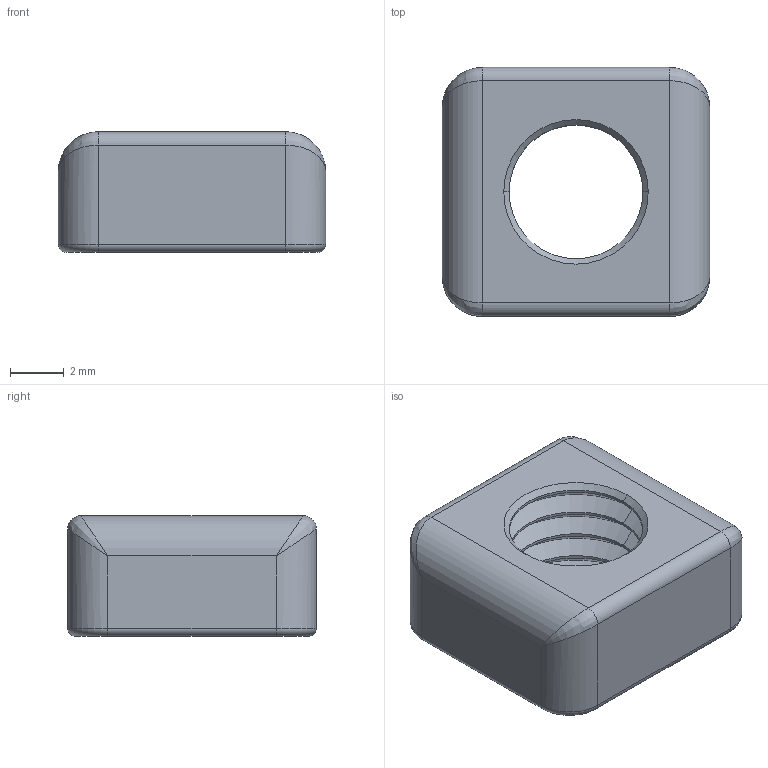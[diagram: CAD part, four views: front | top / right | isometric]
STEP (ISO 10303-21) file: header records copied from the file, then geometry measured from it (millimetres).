
FILE_DESCRIPTION (( 'STEP AP203' ), '1' );
FILE_NAME ('PN06M6.STEP', '2024-02-17T07:10:10', ( '' ), ( '' ), 'SwSTEP 2.0', 'SolidWorks 2022', '' );
FILE_SCHEMA (( 'CONFIG_CONTROL_DESIGN' ));
Length unit declared in the file: millimetre
Products named in the file (1): PN06M6
Bounding box: 10 x 9.3 x 4.5 mm (x, y, z)
Volume: 296.4 mm3; surface area: 388.6 mm2
Topology: 1 solids, 1 shells, 56 faces, 118 edges, 60 vertices
Faces by surface type: cylinder 22, cone 20, plane 6, bspline 4, torus 4
Entity records: 1607 total; most frequent: CARTESIAN_POINT 371, DIRECTION 264, ORIENTED_EDGE 228, EDGE_CURVE 114, AXIS2_PLACEMENT_3D 105, VERTEX_POINT 60, EDGE_LOOP 58, FACE_OUTER_BOUND 56
